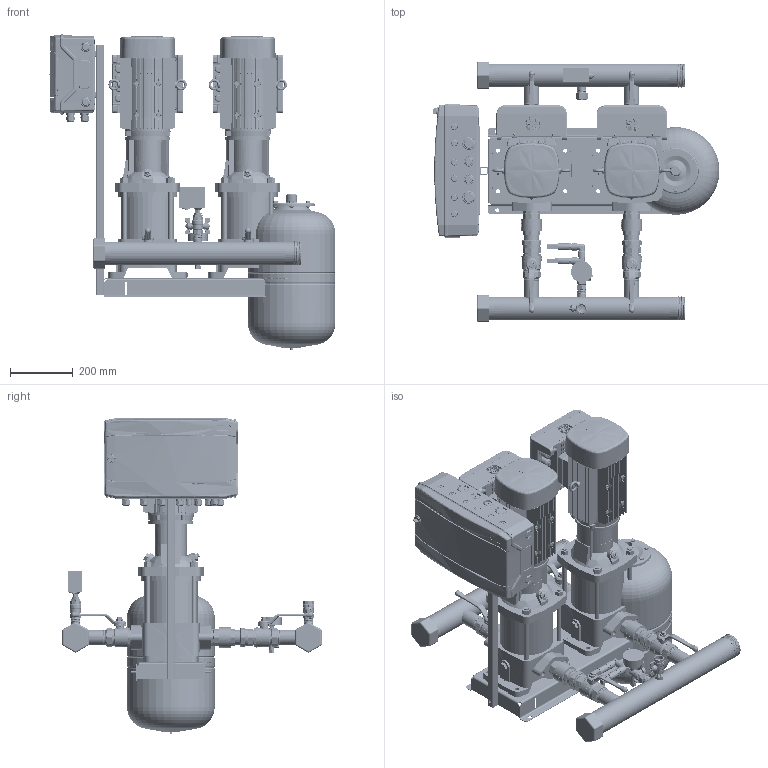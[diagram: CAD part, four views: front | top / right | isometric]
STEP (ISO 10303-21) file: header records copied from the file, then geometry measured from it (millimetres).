
FILE_DESCRIPTION(('CATIA V5 STEP Exchange','CAx-IF Rec.Pracs.--- Model Styling and Organization---1.4--- 2014-01-23','CAx-IF Rec.Pracs.---3D Tessellated Data Validation Properties---0.5---2014-09-14'),'2;1');
FILE_NAME('C:\Users\78432\YandexDisk\Drawings and 3D\3D Hydro Booster\Hydro-ME 3D\Hydro Models\Hydro ME 2 CRV10-xx\Hydro ME 2 CRVE10-5.stp','2023-09-20T09:38:37+00:00',('none'),('none'),'CATIA Version 5-6 Release 2019 SP6','CATIA V5 STEP AP242 v1','none');
FILE_SCHEMA(('AP242_MANAGED_MODEL_BASED_3D_ENGINEERING_MIM_LF {1 0 10303 442 1 1 4}'));
Length unit declared in the file: millimetre
Products named in the file (46): Hydro ME 2 CRVE10-5; 92051008; CRV10-5 Set; CRV 10-5_A_Oval_2.2kW; Base; Flange.1; Flange.2; Sleeve; Pumphead; Staybolt.1; Staybolt.2; Staybolt.3; Staybolt.4; Plug; AirVent; Motor; 92807544_9022-05; Hydraulica NY DN32 1,5 PN16; DN40_FM_LV_47.303.40; 92807557_9013-05; SAJ PDH30 0,75-2,2kW; 97941444; 405801; 405816; 91040267; 97941481; 00ID7527; Holder and CP 18mod; 92878909; Control ME (18mod); 2 sensors + manometer cpl.; manometr 16 bar; RPD-I-G1_2; 9021-01; 2070 1/2-1/2; _2020 1/2-1/2; 98594078; Tank 24L cpl.; DN20_FF_BF_47.300.20; WAV-24(D140 1'')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
Assembly tree (53 placements, depth 4):
  Hydro ME 2 CRVE10-5
    92051008
    CRV10-5 Set  x2
      CRV 10-5_A_Oval_2.2kW
        Base
        Flange.1
        Flange.2
        Sleeve
        Pumphead
        Staybolt.1
        Staybolt.2
        Staybolt.3
        Staybolt.4
        Plug
        AirVent
        Motor
      92807544_9022-05
      Hydraulica NY DN32 1,5 PN16
      DN40_FM_LV_47.303.40
      92807557_9013-05
      SAJ PDH30 0,75-2,2kW
    97941444  x2
      405801
      405816
      91040267
      97941481
    00ID7527  x2
    Holder and CP 18mod
      92878909
      Control ME (18mod)
    2 sensors + manometer cpl.
      manometr 16 bar
      RPD-I-G1_2  x2
      9021-01
      2070 1/2-1/2
      _2020 1/2-1/2
      98594078
    Tank 24L cpl.
      DN20_FF_BF_47.300.20
      9021-03
    Relay cpl.
      Relay RD-2R
      DN20_FF_BF_47.300.20
      2530 3/4-1/2
      _2530 1/2-1/4
    91078139
  WAV-24(D140 1'')
Bounding box: 916.82 x 829.22 x 1009.9 mm (x, y, z)
Volume: 66758707.8 mm3; surface area: 6662479.1 mm2
Topology: 164 solids, 192 shells, 25289 faces, 72726 edges, 48526 vertices
Faces by surface type: plane 9670, bspline 6950, cylinder 6193, cone 1681, torus 358, extrusion 260, sphere 177
Entity records: 619913 total; most frequent: CARTESIAN_POINT 310292, ORIENTED_EDGE 80238, EDGE_CURVE 40592, DIRECTION 36025, VERTEX_POINT 27055, B_SPLINE_CURVE_WITH_KNOTS 16538, VECTOR 16494, LINE 16429
